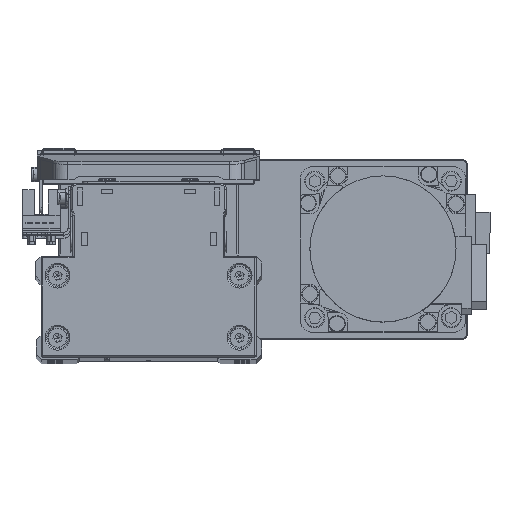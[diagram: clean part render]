
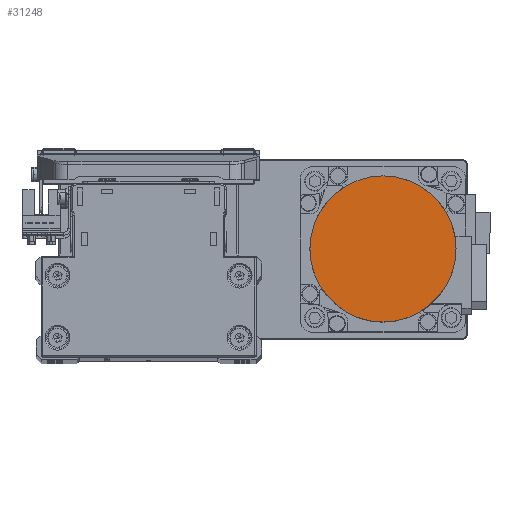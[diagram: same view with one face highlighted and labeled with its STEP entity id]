
A CAD part, top view. The second image highlights one B-rep face of the part: STEP entity #31248.
In plain terms, the highlighted planar face has unit normal (0, 0, 1) as drawn and (0, 0, -1) by its records, which use the part's own axes.
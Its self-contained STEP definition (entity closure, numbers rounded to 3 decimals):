
#1517 = CIRCLE ( 'NONE', #24794, 26.5 ) ;
#5146 = CARTESIAN_POINT ( 'NONE',  ( 0., 0., -109.7 ) ) ;
#6183 = FACE_OUTER_BOUND ( 'NONE', #6724, .T. ) ;
#6724 = EDGE_LOOP ( 'NONE', ( #40667, #33872 ) ) ;
#9108 = DIRECTION ( 'NONE',  ( 0., 0., 1. ) ) ;
#10317 = EDGE_CURVE ( 'NONE', #22126, #16144, #15353, .T. ) ;
#11764 = CARTESIAN_POINT ( 'NONE',  ( -26.5, 0., -109.7 ) ) ;
#12633 = DIRECTION ( 'NONE',  ( 1., 0., 0. ) ) ;
#15353 = CIRCLE ( 'NONE', #38592, 26.5 ) ;
#15748 = PLANE ( 'NONE',  #18242 ) ;
#16144 = VERTEX_POINT ( 'NONE', #11764 ) ;
#17864 = DIRECTION ( 'NONE',  ( 0., 0., 1. ) ) ;
#18242 = AXIS2_PLACEMENT_3D ( 'NONE', #28433, #41116, #12633 ) ;
#21810 = DIRECTION ( 'NONE',  ( 1., 0., 0. ) ) ;
#21938 = CARTESIAN_POINT ( 'NONE',  ( 26.5, 0., -109.7 ) ) ;
#22126 = VERTEX_POINT ( 'NONE', #21938 ) ;
#24794 = AXIS2_PLACEMENT_3D ( 'NONE', #5146, #17864, #30536 ) ;
#28433 = CARTESIAN_POINT ( 'NONE',  ( 0., 0., -109.7 ) ) ;
#30536 = DIRECTION ( 'NONE',  ( -1., 0., 0. ) ) ;
#31248 = ADVANCED_FACE ( 'NONE', ( #6183 ), #15748, .F. ) ;
#33872 = ORIENTED_EDGE ( 'NONE', *, *, #10317, .F. ) ;
#36547 = EDGE_CURVE ( 'NONE', #16144, #22126, #1517, .T. ) ;
#37604 = CARTESIAN_POINT ( 'NONE',  ( 0., 0., -109.7 ) ) ;
#38592 = AXIS2_PLACEMENT_3D ( 'NONE', #37604, #9108, #21810 ) ;
#40667 = ORIENTED_EDGE ( 'NONE', *, *, #36547, .F. ) ;
#41116 = DIRECTION ( 'NONE',  ( 0., 0., 1. ) ) ;
